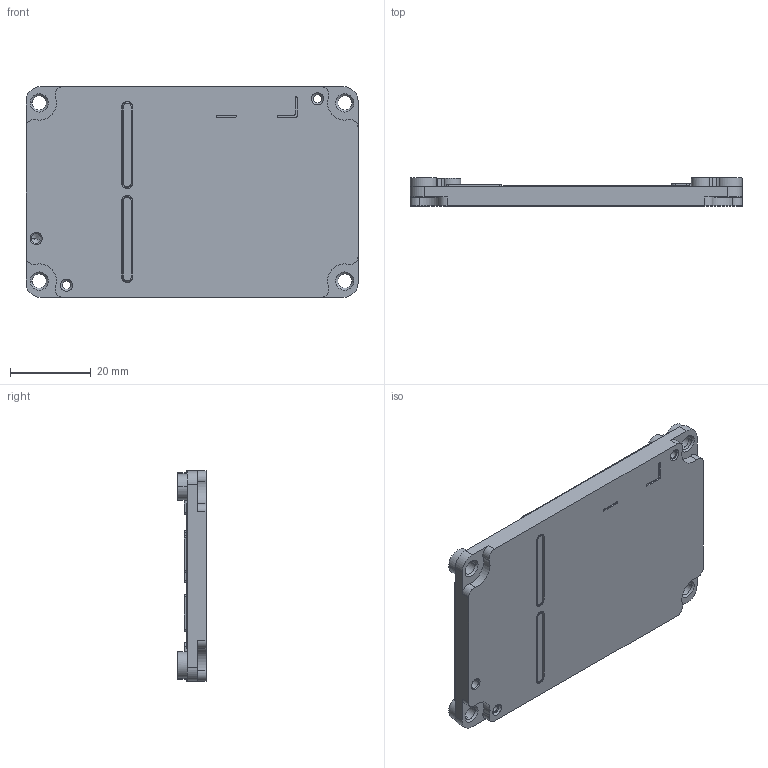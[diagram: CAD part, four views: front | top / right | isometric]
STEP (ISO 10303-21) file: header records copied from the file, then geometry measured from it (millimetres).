
FILE_DESCRIPTION((''),'2;1');
FILE_NAME('21164655_DRAEN_ASM','2023-05-26T19:51:23',('dWX1091079'),(''),'CREO PARAMETRIC BY PTC INC, 2019444','CREO PARAMETRIC BY PTC INC, 2019444','');
FILE_SCHEMA(('CONFIG_CONTROL_DESIGN'));
Length unit declared in the file: millimetre
Products named in the file (7): DKBA81152960; DKBA88080801; DKBA88080802; DKBA88080803; DKBA88080804; DKBA80919053; 21164655_DRAEN_ASM
Assembly tree (7 placements, depth 2):
  21164655_DRAEN_ASM
    DKBA81152960
    DKBA88080801
    DKBA88080802
    DKBA88080803
    DKBA88080804
    DKBA80919053  x2
Bounding box: 82 x 6.95 x 52 mm (x, y, z)
Volume: 16440.9 mm3; surface area: 13341.6 mm2
Topology: 7 solids, 9 shells, 564 faces, 1591 edges, 1053 vertices
Faces by surface type: plane 304, cylinder 232, cone 24, torus 4
Entity records: 15717 total; most frequent: DIRECTION 2772, CARTESIAN_POINT 2769, ORIENTED_EDGE 2674, EDGE_CURVE 1341, AXIS2_PLACEMENT_3D 952, VERTEX_POINT 889, VECTOR 868, LINE 868
